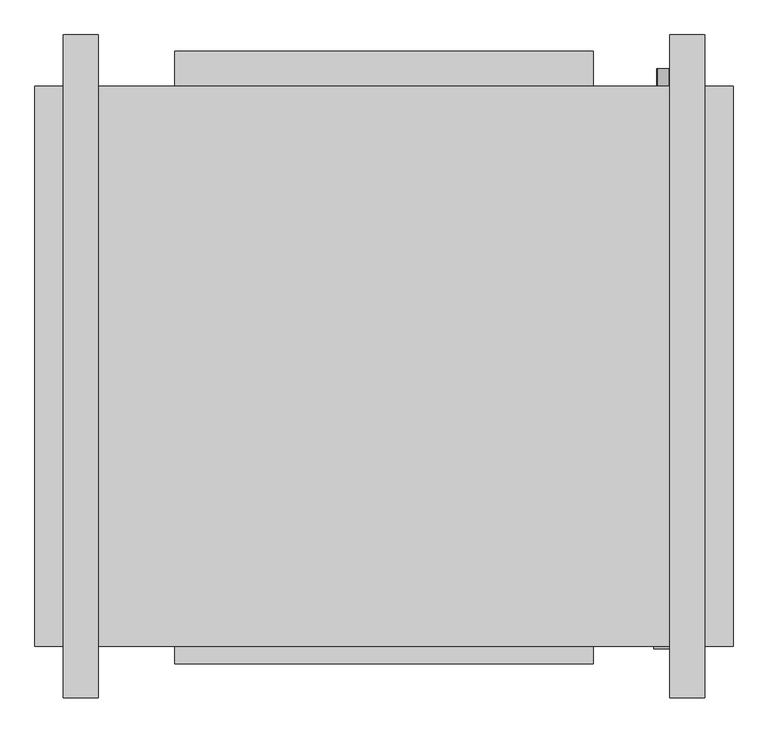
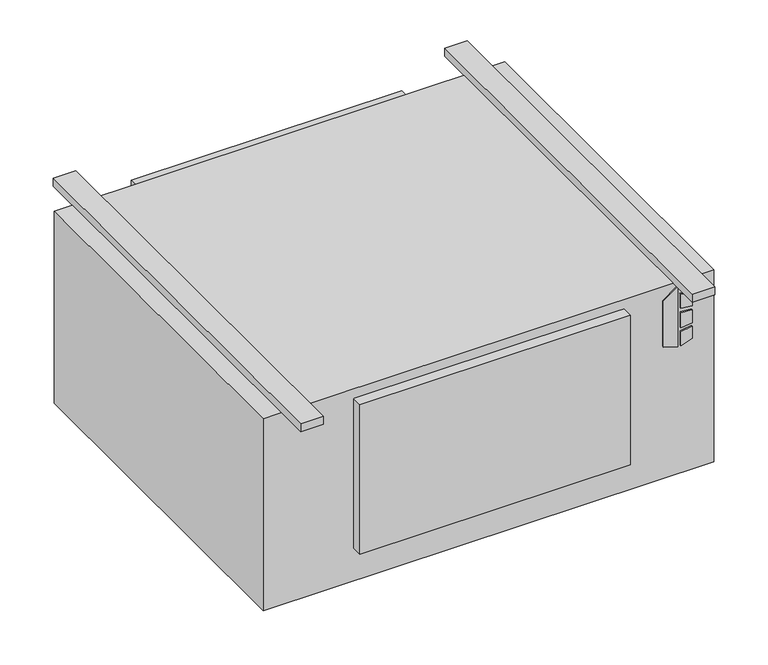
"""IFC4 building model written with IfcOpenShell, lengths in millimetres: proxy geometry, Concealed_High_Capacity_Horizontal_Cabinet_Fan_Coil_Unit_-_HXY_-_IEC_-_4-Pipe_RH_2022 : Size 10 - 277v/60Hz/1Ph - 6/2 Coil."""

from ifc_helpers import new_model, si_unit, point, frame, frame_2d, origin, origin_with_axes, place, context, project, spatial, polyline, circle_curve, trimmed, segment, composite_curve, outline, extrude, source, transform, mapped, element, save


def mechanical_equipment_8e86c83e(model_context):
    return source(origin(), model_context, "Body", "SweptSolid", [
        extrude(outline(polyline([(-142.4519297, 544.5868862), (-152.4, 576.7602728), (-10.2290756, 576.7602728), (-33.2510817, 544.5868862), (-142.4519297, 544.5868862)])), frame((0.0, -649.2875, 0.0), z_axis=(0.0, 1.0, 0.0), x_axis=(0.0, 0.0, 1.0)), (0.0, 0.0, 1.0), 3.175),
        extrude(outline(polyline([(-63.4526443, 583.5186058), (-66.6550368, 609.6), (-37.4261958, 609.6), (-29.3617807, 583.5186058), (-63.4526443, 583.5186058)])), frame((0.0, -649.2875, 0.0), z_axis=(0.0, 1.0, 0.0), x_axis=(0.0, 0.0, 1.0)), (0.0, 0.0, 1.0), 3.175),
        extrude(outline(polyline([(-115.3161712, 609.6), (-118.9816721, 583.5186058), (-152.4, 583.5186058), (-143.7657628, 609.6), (-115.3161712, 609.6)])), frame((0.0, -649.2875, 0.0), z_axis=(0.0, 1.0, 0.0), x_axis=(0.0, 0.0, 1.0)), (0.0, 0.0, 1.0), 3.175),
        extrude(outline(polyline([(-76.0010097, 609.6), (-73.7191834, 583.5186058), (-109.6567319, 583.5186058), (-106.9154669, 609.6), (-76.0010097, 609.6)])), frame((0.0, -649.2875, 0.0), z_axis=(0.0, 1.0, 0.0), x_axis=(0.0, 0.0, 1.0)), (0.0, 0.0, 1.0), 3.175),
        extrude(outline(composite_curve([segment(trimmed(circle_curve(frame_2d((-406.4, 558.8)), 9.525), [point((-406.4, 549.275))], [point((-406.4, 568.325))], False, "CARTESIAN"), True, "CONTINUOUS"), segment(trimmed(circle_curve(frame_2d((-406.4, 558.8)), 9.525), [point((-406.4, 568.325))], [point((-406.4, 549.275))], False, "CARTESIAN"), True, "CONTINUOUS")], self_intersect=False)), frame((0.0, 169.8625, 0.0), z_axis=(0.0, 1.0, 0.0), x_axis=(0.0, 0.0, 1.0)), (0.0, 0.0, 1.0), 25.4),
        extrude(outline(composite_curve([segment(trimmed(circle_curve(frame_2d((-330.2, 558.8)), 7.9375), [point((-330.2, 550.8625))], [point((-330.2, 566.7375))], False, "CARTESIAN"), True, "CONTINUOUS"), segment(trimmed(circle_curve(frame_2d((-330.2, 558.8)), 7.9375), [point((-330.2, 566.7375))], [point((-330.2, 550.8625))], False, "CARTESIAN"), True, "CONTINUOUS")], self_intersect=False)), frame((0.0, 169.8625, 0.0), z_axis=(0.0, 1.0, 0.0), x_axis=(0.0, 0.0, 1.0)), (0.0, 0.0, 1.0), 25.4),
        extrude(outline(composite_curve([segment(trimmed(circle_curve(frame_2d((-254.0, 558.8)), 7.9375), [point((-254.0, 550.8625))], [point((-254.0, 566.7375))], False, "CARTESIAN"), True, "CONTINUOUS"), segment(trimmed(circle_curve(frame_2d((-254.0, 558.8)), 7.9375), [point((-254.0, 566.7375))], [point((-254.0, 550.8625))], False, "CARTESIAN"), True, "CONTINUOUS")], self_intersect=False)), frame((0.0, 169.8625, 0.0), z_axis=(0.0, 1.0, 0.0), x_axis=(0.0, 0.0, 1.0)), (0.0, 0.0, 1.0), 25.4),
        extrude(outline(composite_curve([segment(trimmed(circle_curve(frame_2d((-177.8, 558.8)), 7.9375), [point((-177.8, 550.8625))], [point((-177.8, 566.7375))], False, "CARTESIAN"), True, "CONTINUOUS"), segment(trimmed(circle_curve(frame_2d((-177.8, 558.8)), 7.9375), [point((-177.8, 566.7375))], [point((-177.8, 550.8625))], False, "CARTESIAN"), True, "CONTINUOUS")], self_intersect=False)), frame((0.0, 169.8625, 0.0), z_axis=(0.0, 1.0, 0.0), x_axis=(0.0, 0.0, 1.0)), (0.0, 0.0, 1.0), 25.4),
        extrude(outline(composite_curve([segment(trimmed(circle_curve(frame_2d((-101.6, 558.8)), 7.9375), [point((-101.6, 550.8625))], [point((-101.6, 566.7375))], False, "CARTESIAN"), True, "CONTINUOUS"), segment(trimmed(circle_curve(frame_2d((-101.6, 558.8)), 7.9375), [point((-101.6, 566.7375))], [point((-101.6, 550.8625))], False, "CARTESIAN"), True, "CONTINUOUS")], self_intersect=False)), frame((0.0, 169.8625, 0.0), z_axis=(0.0, 1.0, 0.0), x_axis=(0.0, 0.0, 1.0)), (0.0, 0.0, 1.0), 25.4),
        extrude(outline(polyline([(660.4, 169.8625), (660.4, -646.1125), (-355.6, -646.1125), (-355.6, 169.8625), (660.4, 169.8625)])), frame((0.0, 0.0, -457.2), z_axis=(0.0, 0.0, 1.0), x_axis=(1.0, 0.0, 0.0)), (0.0, 0.0, 1.0), 457.2),
        extrude(outline(polyline([(-152.4, 220.6625), (457.2, 220.6625), (457.2, 169.8625), (-152.4, 169.8625), (-152.4, 220.6625)])), frame((0.0, 0.0, -377.825), z_axis=(0.0, 0.0, 1.0), x_axis=(1.0, 0.0, 0.0)), (0.0, 0.0, 1.0), 349.25),
        extrude(outline(polyline([(-263.525, 244.475), (-263.525, -720.725), (-314.325, -720.725), (-314.325, 244.475), (-263.525, 244.475)])), origin_with_axes(), (0.0, 0.0, 1.0), 19.05),
        extrude(outline(polyline([(619.125, 244.475), (619.125, -720.725), (568.325, -720.725), (568.325, 244.475), (619.125, 244.475)])), origin_with_axes(), (0.0, 0.0, 1.0), 19.05),
        extrude(outline(polyline([(457.2, -671.5125), (-152.4, -671.5125), (-152.4, -646.1125), (457.2, -646.1125), (457.2, -671.5125)])), frame((0.0, 0.0, -377.825), z_axis=(0.0, 0.0, 1.0), x_axis=(1.0, 0.0, 0.0)), (0.0, 0.0, 1.0), 355.6),
    ])


if __name__ == "__main__":
    model = new_model("IFC4")
    model_context = context("Model", 3, world=origin())
    ifc_project = project(units=[si_unit("LENGTHUNIT", "METRE", prefix="MILLI")], contexts=[model_context])
    site = spatial("IfcSite", under=ifc_project)
    building = spatial("IfcBuilding", under=site)
    placement = place(None, origin())
    mechanical_equipment_shape = mechanical_equipment_8e86c83e(model_context)
    element("IfcBuildingElementProxy", 1, Name="Concealed_High_Capacity_Horizontal_Cabinet_Fan_Coil_Unit_-_HXY_-_IEC_-_4-Pipe_RH_2022 : Size 10 - 277v/60Hz/1Ph - 6/2 Coil", ObjectType="Concealed_High_Capacity_Horizontal_Cabinet_Fan_Coil_Unit_-_HXY_-_IEC_-_4-Pipe_RH_2022 : Size 10 - 277v/60Hz/1Ph - 6/2 Coil", at=placement, inside=building, context=model_context, shape_type="MappedRepresentation", body=[
        mapped(mechanical_equipment_shape, transform((0.0, 0.0, 0.0), x_axis=(1.0, 0.0, 0.0), y_axis=(0.0, 1.0, 0.0), z_axis=(0.0, 0.0, 1.0))),
    ])
    save(model, "model.ifc")
